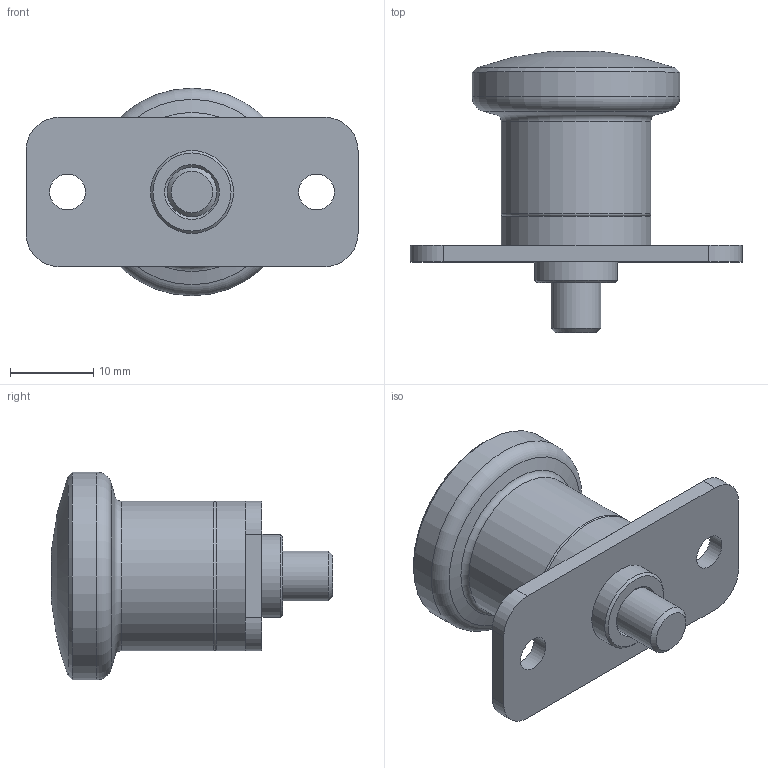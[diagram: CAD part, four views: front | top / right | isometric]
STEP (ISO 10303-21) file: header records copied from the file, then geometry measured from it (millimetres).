
FILE_DESCRIPTION( ( 'STEP AP203' ), '1' );
FILE_NAME( 'C:/Temp/Ganter_Step_05_03_2020/data/3_1/gn822_9/gn822_9_b/Stainless Steel-Mini indexing plunger GN 822.9-6-6-B (deactivated).stp', '2020-03-12T09:24:30', ( 'License CC BY-ND 4.0' ), ( 'CADENAS' ), ' ', 'PARTsolutions', ' ' );
FILE_SCHEMA( ( 'CONFIG_CONTROL_DESIGN' ) );
Length unit declared in the file: millimetre
Products named in the file (3): Stainless Steel-Mini indexing plunger GN 822.9-6-6-B (deactivated); _Stainless Steel-Mini indexing plunger GN 822.9-6-6-B (deactivated)_1; _Stainless Steel-Mini indexing plunger GN 822.9-6-6-B (unbetaetigt)_2
Assembly tree (2 placements, depth 2):
  Stainless Steel-Mini indexing plunger GN 822.9-6-6-B (deactivated)
    _Stainless Steel-Mini indexing plunger GN 822.9-6-6-B (deactivated)_1
    _Stainless Steel-Mini indexing plunger GN 822.9-6-6-B (unbetaetigt)_2
Bounding box: 40 x 33.87 x 25 mm (x, y, z)
Volume: 8666 mm3; surface area: 6241.5 mm2
Topology: 2 solids, 2 shells, 54 faces, 119 edges, 75 vertices
Faces by surface type: plane 28, cylinder 14, cone 8, torus 3, sphere 1
Full cylindrical faces by diameter (mm): 4 x1, 4.2 x1, 4.3 x2, 6 x2, 10 x1, 18 x2, 25 x1
Entity records: 1586 total; most frequent: CARTESIAN_POINT 371, DIRECTION 236, ORIENTED_EDGE 188, AXIS2_PLACEMENT_3D 97, EDGE_CURVE 94, EDGE_LOOP 88, VERTEX_POINT 72, FACE_OUTER_BOUND 68
